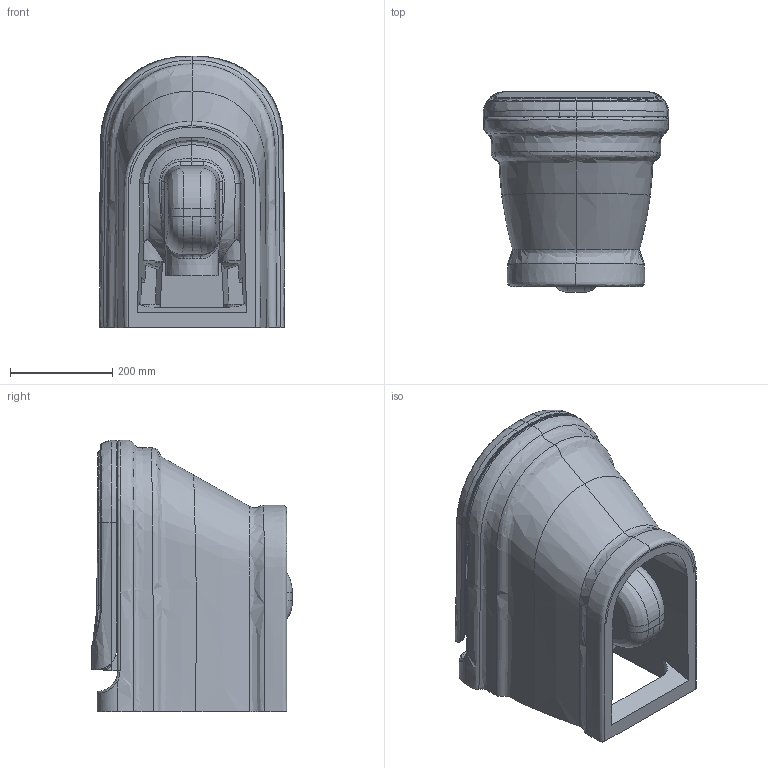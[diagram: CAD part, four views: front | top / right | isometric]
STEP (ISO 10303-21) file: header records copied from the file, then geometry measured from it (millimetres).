
FILE_DESCRIPTION (( 'STEP AP203' ), '1' );
FILE_NAME ('AN320-001.0000E.STEP', '2023-01-20T07:51:44', ( '' ), ( '' ), 'SwSTEP 2.0', 'SolidWorks 2021', '' );
FILE_SCHEMA (( 'CONFIG_CONTROL_DESIGN' ));
Products named in the file (1): AN320-001.0000E
Bounding box: 362.02 x 391.5 x 530.1 mm (x, y, z)
Volume: 20282706.4 mm3; surface area: 1946727 mm2
Topology: 7 solids, 7 shells, 1036 faces, 2585 edges, 1580 vertices
Faces by surface type: bspline 508, cylinder 196, plane 191, torus 92, cone 45, sphere 4
Entity records: 194368 total; most frequent: CARTESIAN_POINT 173841, ORIENTED_EDGE 5150, DIRECTION 3031, EDGE_CURVE 2575, VERTEX_POINT 1580, AXIS2_PLACEMENT_3D 1223, B_SPLINE_CURVE_WITH_KNOTS 1166, EDGE_LOOP 1073
